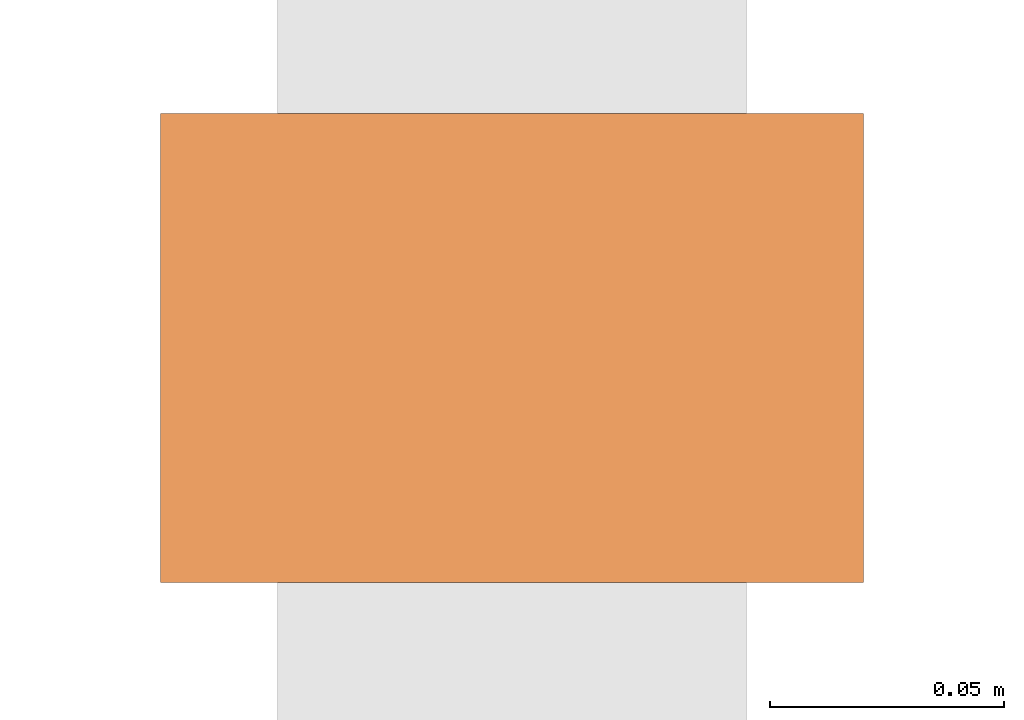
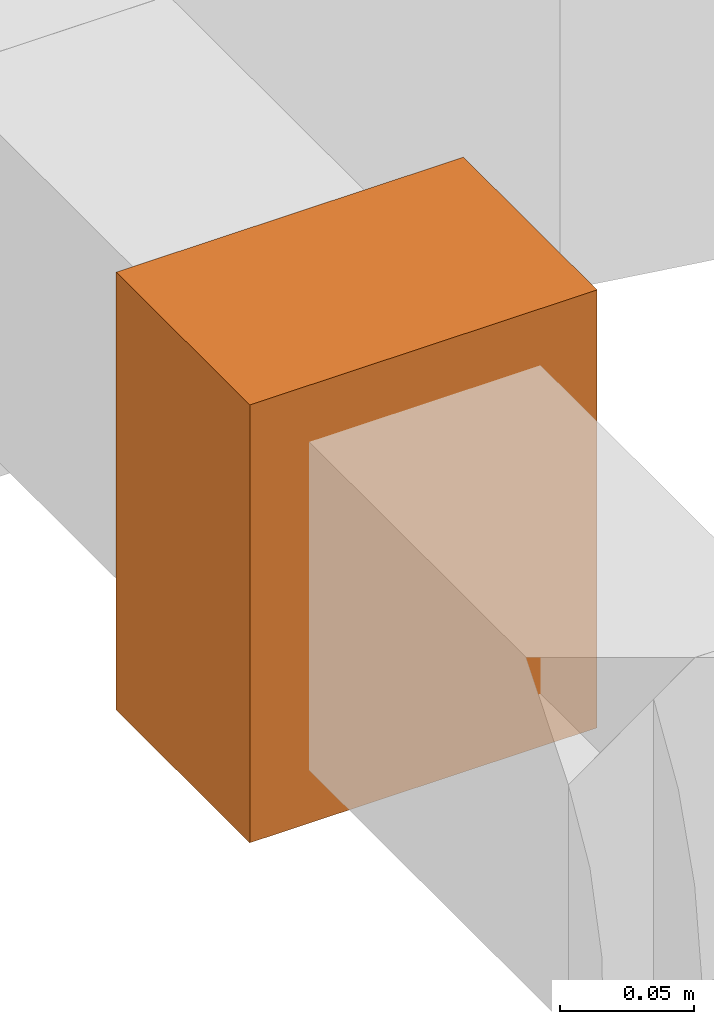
# One storey, part 59 of 60: 1 proxy.
"""IFC2X3 building model written with IfcOpenShell, lengths in millimetres."""

from ifc_helpers import new_model, entity, si_unit, converted_unit, derived_unit, direction, frame, origin, origin_2d_with_axis, place, context, subcontext, project, spatial, rectangle, extrude, source, transform, mapped, material, type_object, type_shapes, element, save


model = new_model("IFC2X3")

# Units and contexts
model_context = context("Model", 3, precision=0.01, world=origin(), true_north=direction((6.123233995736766e-17, 1.0)))
body_context = subcontext(model_context, "Body", "Model", "MODEL_VIEW")
ifc_project = project(units=[si_unit("LENGTHUNIT", "METRE", prefix="MILLI"), converted_unit("PLANEANGLEUNIT", "DEGREE", entity("IfcPlaneAngleMeasure", 0.017453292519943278), si_unit("PLANEANGLEUNIT", "RADIAN"), dimensions=[0, 0, 0, 0, 0, 0, 0]), si_unit("AREAUNIT", "SQUARE_METRE"), derived_unit("THERMALTRANSMITTANCEUNIT", [(si_unit("MASSUNIT", "GRAM", prefix="KILO"), 1), (si_unit("THERMODYNAMICTEMPERATUREUNIT", "KELVIN"), -1), (si_unit("TIMEUNIT", "SECOND"), -3)])], contexts=[model_context])

# Site, building, storey
site_placement = place(None, origin())
site = spatial("IfcSite", under=ifc_project, at=site_placement, Name="Default", CompositionType="ELEMENT")
building_placement = place(site_placement, origin())
building = spatial("IfcBuilding", under=site, at=building_placement, Name="Praça Pedro II, 1301 - Centro (Sul), Teresina - PI, 64001-100", CompositionType="ELEMENT")
storey_placement = place(building_placement, frame((0.0, 0.0, 6040.0)))
storey = spatial("IfcBuildingStorey", under=building, at=storey_placement, Name="2PAV", CompositionType="ELEMENT", Elevation=6040.0)

# Proxy
ifc_material = material(Name="<Unnamed>")
building_element_proxy_type = type_object("IfcBuildingElementProxyType", Name="M_Control Damper - Opposed Blade (Type):100X155", PredefinedType="NOTDEFINED", material=ifc_material)
shared_shape = source(origin(), body_context, "Body", "SweptSolid", [
    extrude(rectangle(XDim=99.99999999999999, YDim=150.00000000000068, at=origin_2d_with_axis()), frame((0.0, 0.0, -100.0), z_axis=(0.0, 0.0, 1.0), x_axis=(-1.0, 0.0, 0.0)), (0.0, 0.0, 1.0), 199.99999999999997),
])
type_shapes(building_element_proxy_type, [shared_shape])
proxy_placement = place(storey_placement, frame((36756.67870718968, -63738.15315057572, 3450.0), z_axis=(0.0, 0.0, -1.0), x_axis=(0.0, 1.0, 0.0)))
element("IfcBuildingElementProxy", 1, at=proxy_placement, inside=storey, type_object=building_element_proxy_type, material=ifc_material, Name="M_Control Damper - Opposed Blade (Type):100X155", ObjectType="M_Control Damper - Opposed Blade (Type):100X155", context=body_context, shape_type="MappedRepresentation", body=[
    mapped(shared_shape, transform((0.0, 0.0, 0.0), scale=1.0)),
])

save(model, "model.ifc")
